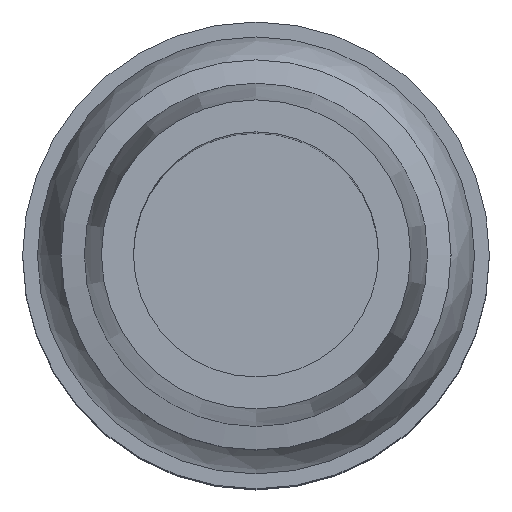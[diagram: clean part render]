
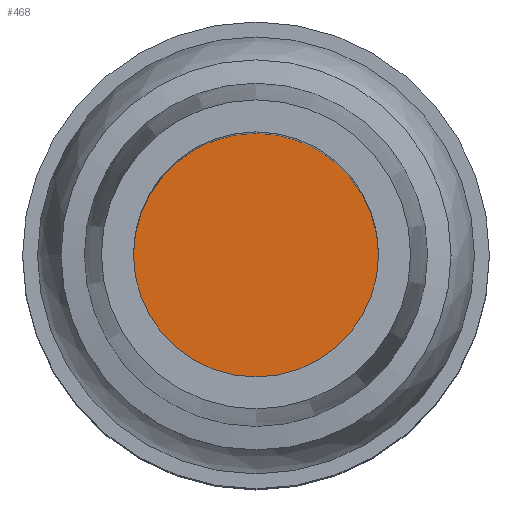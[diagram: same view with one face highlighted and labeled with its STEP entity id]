
A CAD part, top view. The second image highlights one B-rep face of the part: STEP entity #468.
In plain terms, the highlighted planar face has unit normal (0, 0, 1).
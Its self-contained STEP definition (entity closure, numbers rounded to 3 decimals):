
#38=PLANE('',#511);
#48=FACE_OUTER_BOUND('',#74,.T.);
#74=EDGE_LOOP('',(#318));
#137=CIRCLE('',#510,12.5);
#190=VERTEX_POINT('',#768);
#245=EDGE_CURVE('',#190,#190,#137,.T.);
#318=ORIENTED_EDGE('',*,*,#245,.F.);
#468=ADVANCED_FACE('',(#48),#38,.T.);
#510=AXIS2_PLACEMENT_3D('',#770,#596,#597);
#511=AXIS2_PLACEMENT_3D('',#771,#598,#599);
#596=DIRECTION('center_axis',(0.,0.,-1.));
#597=DIRECTION('ref_axis',(1.,0.,0.));
#598=DIRECTION('center_axis',(0.,0.,1.));
#599=DIRECTION('ref_axis',(1.,0.,0.));
#768=CARTESIAN_POINT('',(-12.5,0.,10.466));
#770=CARTESIAN_POINT('Origin',(0.,0.,10.466));
#771=CARTESIAN_POINT('Origin',(0.,0.,10.466));
